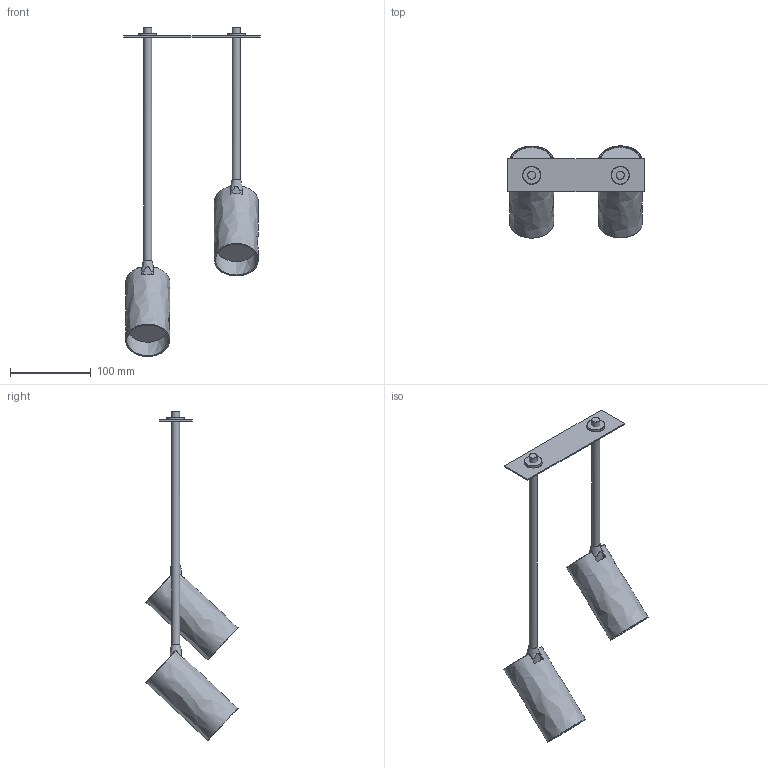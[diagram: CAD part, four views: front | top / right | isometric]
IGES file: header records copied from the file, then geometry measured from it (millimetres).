
Start section: SolidWorks IGES file using NURBS representation for surfaces
Global section: file name: Z:\Modele 3D_WWW\_KOLEKCJE_WWW\MONO\MONO-SURFACE-LONG\7736\MONO-SURFACE-LONG-II-7736.IGS; native system: SolidWorks 2021; preprocessor: SolidWorks 2021; author: gabriela.tworek; date: 220126.082115; units: millimetre
Bounding box: 170 x 114.26 x 408.39 mm (x, y, z)
Surface area: 121741.3 mm2 (no closed solid volume)
Topology: 0 solids, 0 shells, 90 faces, 560 edges, 546 vertices
Faces by surface type: bspline 90
